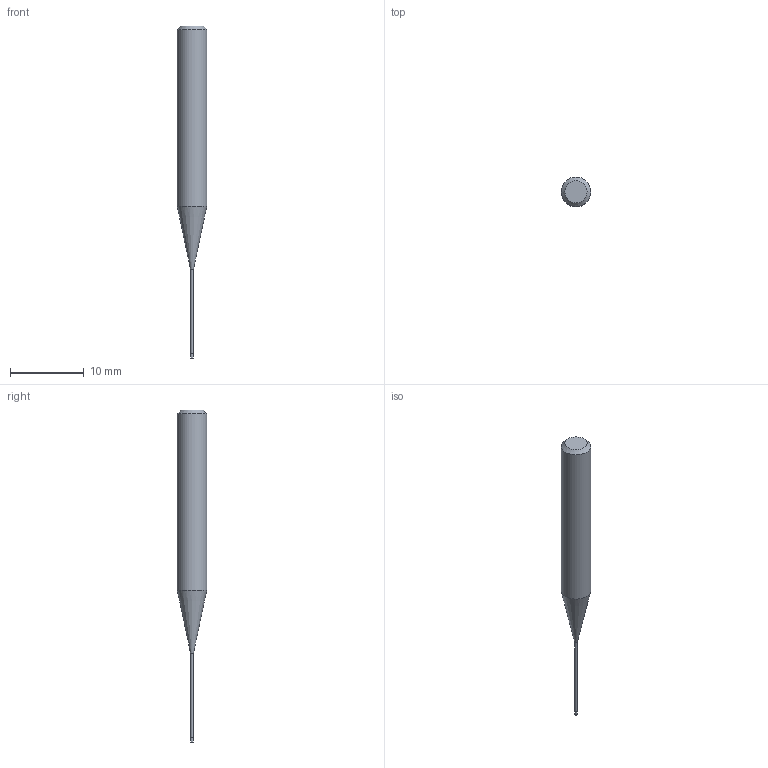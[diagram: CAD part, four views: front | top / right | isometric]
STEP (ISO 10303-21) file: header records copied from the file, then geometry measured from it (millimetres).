
FILE_DESCRIPTION((''),'2;1');
FILE_NAME('C:\Users\nsx150\AppData\Local\Temp\Mastercam 2021\17T8Q8S9EB\TEMP.step','2021-04-21T14:24:14',(''),(''),'STEP Write','Mastercam 2021 ... CNC Software, Inc.','');
FILE_SCHEMA(('AUTOMOTIVE_DESIGN'));
Length unit declared in the file: millimetre
Products named in the file (1): None
Bounding box: 4 x 4 x 45 mm (x, y, z)
Volume: 346.6 mm3; surface area: 390.2 mm2
Topology: 2 solids, 2 shells, 9 faces, 12 edges, 7 vertices
Faces by surface type: plane 4, cylinder 3, cone 2
Full cylindrical faces by diameter (mm): 0.37 x1, 0.4 x1, 4 x1
Entity records: 211 total; most frequent: DIRECTION 36, CARTESIAN_POINT 25, AXIS2_PLACEMENT_3D 18, ORIENTED_EDGE 14, EDGE_LOOP 14, STYLED_ITEM 12, ADVANCED_FACE 9, FACE_BOUND 8
